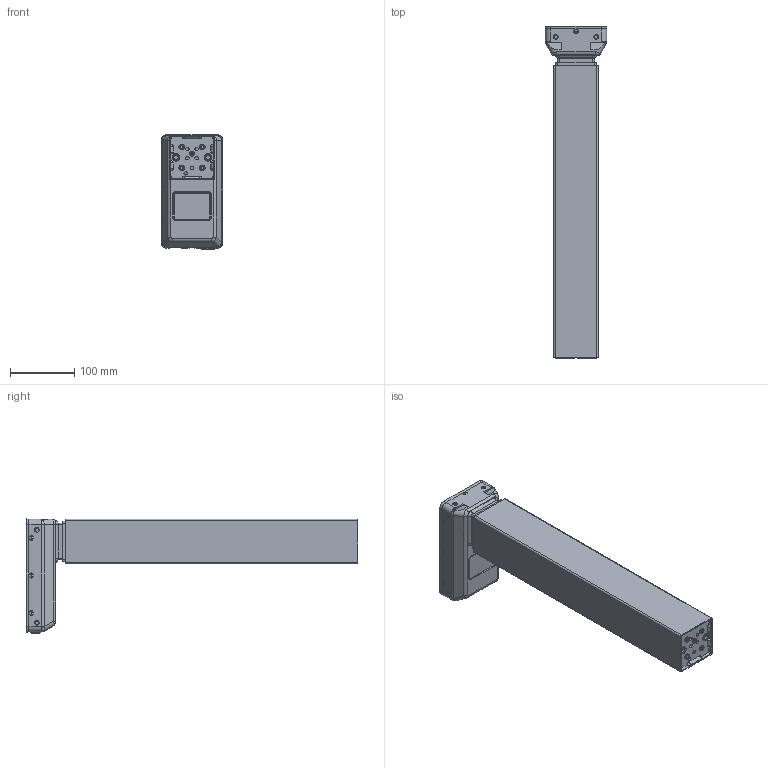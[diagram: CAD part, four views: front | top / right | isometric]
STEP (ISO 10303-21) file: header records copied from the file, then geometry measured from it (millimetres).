
FILE_DESCRIPTION((''),'2;1');
FILE_NAME('1029W7914_ASM','2025-06-11T09:00:54',('jak'),(''),'CREO PARAMETRIC BY PTC INC, 2022024','CREO PARAMETRIC BY PTC INC, 2022024','');
FILE_SCHEMA(('AUTOMOTIVE_DESIGN { 1 0 10303 214 1 1 1 1 }'));
Length unit declared in the file: millimetre
Products named in the file (3): 1029W7912; 1041W7906-A-00-1; 1029W7914_ASM
Assembly tree (2 placements, depth 2):
  1029W7914_ASM
    1029W7912
    1041W7906-A-00-1
Bounding box: 96.5 x 518 x 178.6 mm (x, y, z)
Volume: 2987664.9 mm3; surface area: 203361.1 mm2
Topology: 2 solids, 2 shells, 870 faces, 2194 edges, 1365 vertices
Faces by surface type: plane 355, cylinder 340, bspline 72, torus 70, cone 18, sphere 15
Entity records: 35924 total; most frequent: CARTESIAN_POINT 11724, ORIENTED_EDGE 4384, DIRECTION 4146, EDGE_CURVE 2192, AXIS2_PLACEMENT_3D 1490, VERTEX_POINT 1365, VECTOR 1166, LINE 1166
